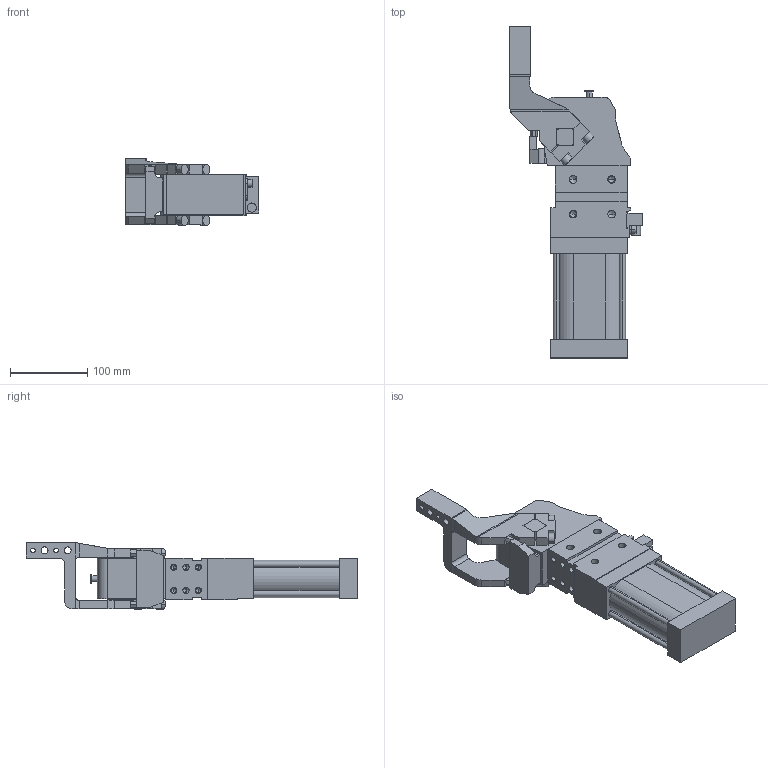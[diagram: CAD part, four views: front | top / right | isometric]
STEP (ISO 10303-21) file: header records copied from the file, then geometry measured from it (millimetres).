
FILE_DESCRIPTION (( 'STEP AP214' ), '1' );
FILE_NAME ('cpl63th3si1g_107.STEP', '2023-01-26T13:01:33', ( '' ), ( '' ), 'SwSTEP 2.0', 'SolidWorks 2022', '' );
FILE_SCHEMA (( 'AUTOMOTIVE_DESIGN' ));
Length unit declared in the file: millimetre
Products named in the file (4): blocchetto_VEP_0; cpl63th3si1g_107; meccanica_cpl_63_tassello_esterno; leva_h3s_cpl63t
Assembly tree (3 placements, depth 2):
  cpl63th3si1g_107
    meccanica_cpl_63_tassello_esterno
    blocchetto_VEP_0
    leva_h3s_cpl63t
Bounding box: 173.5 x 430.5 x 86.5 mm (x, y, z)
Volume: 1839850 mm3; surface area: 200524.7 mm2
Topology: 3 solids, 3 shells, 433 faces, 1142 edges, 709 vertices
Faces by surface type: plane 233, cylinder 150, cone 50
Entity records: 14614 total; most frequent: CARTESIAN_POINT 2350, DIRECTION 2283, ORIENTED_EDGE 2192, EDGE_CURVE 1096, AXIS2_PLACEMENT_3D 764, LINE 755, VECTOR 755, VERTEX_POINT 709
